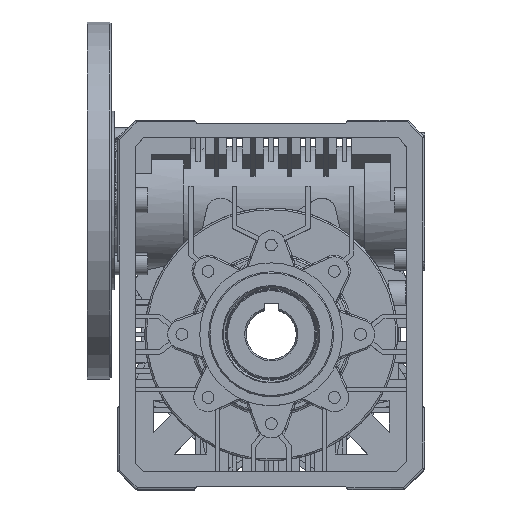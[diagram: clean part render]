
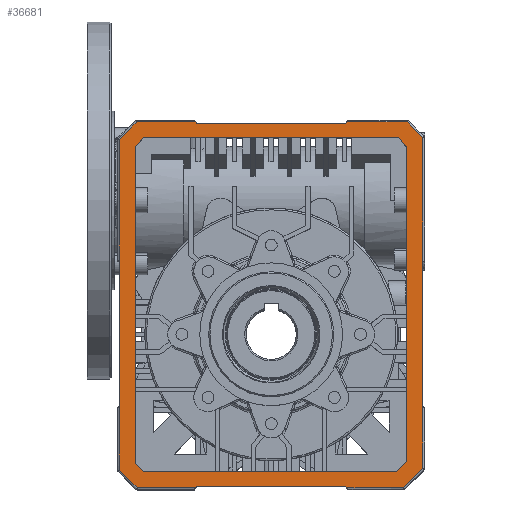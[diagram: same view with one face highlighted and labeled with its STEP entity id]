
A CAD part, top view. The second image highlights one B-rep face of the part: STEP entity #36681.
In plain terms, the highlighted planar face has unit normal (0, 0, 1).
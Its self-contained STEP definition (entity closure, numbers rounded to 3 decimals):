
#29567=CARTESIAN_POINT('',(-85.0,41.577,112.));
#29568=VERTEX_POINT('',#29567);
#31972=CARTESIAN_POINT('',(-42.423,119.0,112.));
#31973=VERTEX_POINT('',#31972);
#31981=CARTESIAN_POINT('',(-41.845,118.0,112.));
#31982=VERTEX_POINT('',#31981);
#31983=CARTESIAN_POINT('',(-41.845,118.0,112.));
#31984=DIRECTION('',(-0.5,0.866,0.0));
#31985=VECTOR('',#31984,1.155);
#31986=LINE('',#31983,#31985);
#31987=EDGE_CURVE('',#31982,#31973,#31986,.T.);
#32270=CARTESIAN_POINT('',(-85.,-40.423,112.));
#32271=VERTEX_POINT('',#32270);
#36090=CARTESIAN_POINT('',(85.0,-40.423,112.));
#36091=VERTEX_POINT('',#36090);
#36099=CARTESIAN_POINT('',(85.,-75.086,112.));
#36100=VERTEX_POINT('',#36099);
#36101=CARTESIAN_POINT('',(85.,-40.423,112.));
#36102=DIRECTION('',(0.0,-1.0,0.0));
#36103=VECTOR('',#36102,34.663);
#36104=LINE('',#36101,#36103);
#36105=EDGE_CURVE('',#36091,#36100,#36104,.T.);
#36130=CARTESIAN_POINT('',(74.086,-86.,112.));
#36131=VERTEX_POINT('',#36130);
#36132=CARTESIAN_POINT('',(85.,-75.086,112.));
#36133=DIRECTION('',(-0.707,-0.707,0.0));
#36134=VECTOR('',#36133,15.435);
#36135=LINE('',#36132,#36134);
#36136=EDGE_CURVE('',#36100,#36131,#36135,.T.);
#36154=CARTESIAN_POINT('',(42.423,-86.,112.));
#36155=VERTEX_POINT('',#36154);
#36171=CARTESIAN_POINT('',(74.086,-86.,112.));
#36172=DIRECTION('',(-1.0,0.0,0.0));
#36173=VECTOR('',#36172,31.663);
#36174=LINE('',#36171,#36173);
#36175=EDGE_CURVE('',#36131,#36155,#36174,.T.);
#36207=CARTESIAN_POINT('',(-42.423,-86.0,112.));
#36208=VERTEX_POINT('',#36207);
#36216=CARTESIAN_POINT('',(-75.086,-86.,112.));
#36217=VERTEX_POINT('',#36216);
#36218=CARTESIAN_POINT('',(-42.423,-86.0,112.));
#36219=DIRECTION('',(-1.0,0.0,0.0));
#36220=VECTOR('',#36219,32.663);
#36221=LINE('',#36218,#36220);
#36222=EDGE_CURVE('',#36208,#36217,#36221,.T.);
#36247=CARTESIAN_POINT('',(-85.,-76.086,112.));
#36248=VERTEX_POINT('',#36247);
#36249=CARTESIAN_POINT('',(-75.086,-86.,112.));
#36250=DIRECTION('',(-0.707,0.707,0.0));
#36251=VECTOR('',#36250,14.021);
#36252=LINE('',#36249,#36251);
#36253=EDGE_CURVE('',#36217,#36248,#36252,.T.);
#36280=CARTESIAN_POINT('',(-85.0,-76.086,112.));
#36281=DIRECTION('',(0.0,1.0,0.0));
#36282=VECTOR('',#36281,35.663);
#36283=LINE('',#36280,#36282);
#36284=EDGE_CURVE('',#36248,#32271,#36283,.T.);
#36317=CARTESIAN_POINT('',(-85.0,109.086,112.));
#36318=VERTEX_POINT('',#36317);
#36319=CARTESIAN_POINT('',(-85.0,41.577,112.));
#36320=DIRECTION('',(0.0,1.0,0.0));
#36321=VECTOR('',#36320,67.508);
#36322=LINE('',#36319,#36321);
#36323=EDGE_CURVE('',#29568,#36318,#36322,.T.);
#36348=CARTESIAN_POINT('',(-75.086,119.0,112.));
#36349=VERTEX_POINT('',#36348);
#36350=CARTESIAN_POINT('',(-85.,109.086,112.));
#36351=DIRECTION('',(0.707,0.707,0.0));
#36352=VECTOR('',#36351,14.021);
#36353=LINE('',#36350,#36352);
#36354=EDGE_CURVE('',#36318,#36349,#36353,.T.);
#36381=CARTESIAN_POINT('',(-75.086,119.0,112.));
#36382=DIRECTION('',(1.0,0.0,0.0));
#36383=VECTOR('',#36382,32.663);
#36384=LINE('',#36381,#36383);
#36385=EDGE_CURVE('',#36349,#31973,#36384,.T.);
#36417=CARTESIAN_POINT('',(42.423,119.0,112.));
#36418=VERTEX_POINT('',#36417);
#36426=CARTESIAN_POINT('',(76.086,119.0,112.));
#36427=VERTEX_POINT('',#36426);
#36428=CARTESIAN_POINT('',(42.423,119.0,112.));
#36429=DIRECTION('',(1.0,0.0,0.0));
#36430=VECTOR('',#36429,33.663);
#36431=LINE('',#36428,#36430);
#36432=EDGE_CURVE('',#36418,#36427,#36431,.T.);
#36457=CARTESIAN_POINT('',(85.,110.086,112.));
#36458=VERTEX_POINT('',#36457);
#36459=CARTESIAN_POINT('',(76.086,119.0,112.));
#36460=DIRECTION('',(0.707,-0.707,0.0));
#36461=VECTOR('',#36460,12.607);
#36462=LINE('',#36459,#36461);
#36463=EDGE_CURVE('',#36427,#36458,#36462,.T.);
#36492=CARTESIAN_POINT('',(85.,40.423,112.));
#36493=VERTEX_POINT('',#36492);
#36509=CARTESIAN_POINT('',(85.,110.086,112.));
#36510=DIRECTION('',(0.0,-1.0,0.0));
#36511=VECTOR('',#36510,69.663);
#36512=LINE('',#36509,#36511);
#36513=EDGE_CURVE('',#36458,#36493,#36512,.T.);
#36547=CARTESIAN_POINT('',(0.672,17.481,112.));
#36548=DIRECTION('',(0.0,0.0,1.0));
#36549=DIRECTION('',(1.0,0.0,0.0));
#36550=AXIS2_PLACEMENT_3D('',#36547,#36548,#36549);
#36551=PLANE('',#36550);
#36552=ORIENTED_EDGE('',*,*,#36105,.F.);
#36553=CARTESIAN_POINT('',(85.0,-40.423,112.));
#36554=DIRECTION('',(0.0,1.0,0.0));
#36555=VECTOR('',#36554,80.845);
#36556=LINE('',#36553,#36555);
#36557=EDGE_CURVE('',#36091,#36493,#36556,.T.);
#36558=ORIENTED_EDGE('',*,*,#36557,.T.);
#36559=ORIENTED_EDGE('',*,*,#36513,.F.);
#36560=ORIENTED_EDGE('',*,*,#36463,.F.);
#36561=ORIENTED_EDGE('',*,*,#36432,.F.);
#36562=CARTESIAN_POINT('',(41.845,118.0,112.));
#36563=VERTEX_POINT('',#36562);
#36564=CARTESIAN_POINT('',(42.423,119.,112.));
#36565=DIRECTION('',(-0.5,-0.866,0.0));
#36566=VECTOR('',#36565,1.155);
#36567=LINE('',#36564,#36566);
#36568=EDGE_CURVE('',#36418,#36563,#36567,.T.);
#36569=ORIENTED_EDGE('',*,*,#36568,.T.);
#36570=CARTESIAN_POINT('',(41.845,118.0,112.));
#36571=DIRECTION('',(-1.0,0.0,0.0));
#36572=VECTOR('',#36571,83.691);
#36573=LINE('',#36570,#36572);
#36574=EDGE_CURVE('',#36563,#31982,#36573,.T.);
#36575=ORIENTED_EDGE('',*,*,#36574,.T.);
#36576=ORIENTED_EDGE('',*,*,#31987,.T.);
#36577=ORIENTED_EDGE('',*,*,#36385,.F.);
#36578=ORIENTED_EDGE('',*,*,#36354,.F.);
#36579=ORIENTED_EDGE('',*,*,#36323,.F.);
#36580=CARTESIAN_POINT('',(-85.0,-40.423,112.));
#36581=DIRECTION('',(0.0,1.0,0.0));
#36582=VECTOR('',#36581,82.0);
#36583=LINE('',#36580,#36582);
#36584=EDGE_CURVE('',#32271,#29568,#36583,.T.);
#36585=ORIENTED_EDGE('',*,*,#36584,.F.);
#36586=ORIENTED_EDGE('',*,*,#36284,.F.);
#36587=ORIENTED_EDGE('',*,*,#36253,.F.);
#36588=ORIENTED_EDGE('',*,*,#36222,.F.);
#36589=CARTESIAN_POINT('',(-41.845,-85.,112.));
#36590=VERTEX_POINT('',#36589);
#36591=CARTESIAN_POINT('',(-42.423,-86.0,112.));
#36592=DIRECTION('',(0.5,0.866,0.0));
#36593=VECTOR('',#36592,1.155);
#36594=LINE('',#36591,#36593);
#36595=EDGE_CURVE('',#36208,#36590,#36594,.T.);
#36596=ORIENTED_EDGE('',*,*,#36595,.T.);
#36597=CARTESIAN_POINT('',(41.845,-85.,112.));
#36598=VERTEX_POINT('',#36597);
#36599=CARTESIAN_POINT('',(-41.845,-85.,112.));
#36600=DIRECTION('',(1.0,0.0,0.0));
#36601=VECTOR('',#36600,83.691);
#36602=LINE('',#36599,#36601);
#36603=EDGE_CURVE('',#36590,#36598,#36602,.T.);
#36604=ORIENTED_EDGE('',*,*,#36603,.T.);
#36605=CARTESIAN_POINT('',(41.845,-85.0,112.));
#36606=DIRECTION('',(0.5,-0.866,0.0));
#36607=VECTOR('',#36606,1.155);
#36608=LINE('',#36605,#36607);
#36609=EDGE_CURVE('',#36598,#36155,#36608,.T.);
#36610=ORIENTED_EDGE('',*,*,#36609,.T.);
#36611=ORIENTED_EDGE('',*,*,#36175,.F.);
#36612=ORIENTED_EDGE('',*,*,#36136,.F.);
#36613=EDGE_LOOP('',(#36552,#36558,#36559,#36560,#36561,#36569,#36575,#36576,#36577,#36578,#36579,#36585,#36586,#36587,#36588,#36596,#36604,#36610,#36611,#36612));
#36614=FACE_OUTER_BOUND('',#36613,.T.);
#36615=CARTESIAN_POINT('',(76.,104.358,112.));
#36616=VERTEX_POINT('',#36615);
#36617=CARTESIAN_POINT('',(76.,-71.358,112.));
#36618=VERTEX_POINT('',#36617);
#36619=CARTESIAN_POINT('',(76.,104.358,112.));
#36620=DIRECTION('',(0.0,-1.0,0.0));
#36621=VECTOR('',#36620,175.716);
#36622=LINE('',#36619,#36621);
#36623=EDGE_CURVE('',#36616,#36618,#36622,.T.);
#36624=ORIENTED_EDGE('',*,*,#36623,.T.);
#36625=CARTESIAN_POINT('',(70.358,-77.,112.));
#36626=VERTEX_POINT('',#36625);
#36627=CARTESIAN_POINT('',(76.,-71.358,112.));
#36628=DIRECTION('',(-0.707,-0.707,0.0));
#36629=VECTOR('',#36628,7.979);
#36630=LINE('',#36627,#36629);
#36631=EDGE_CURVE('',#36618,#36626,#36630,.T.);
#36632=ORIENTED_EDGE('',*,*,#36631,.T.);
#36633=CARTESIAN_POINT('',(-71.358,-77.,112.));
#36634=VERTEX_POINT('',#36633);
#36635=CARTESIAN_POINT('',(70.358,-77.,112.));
#36636=DIRECTION('',(-1.0,0.0,0.0));
#36637=VECTOR('',#36636,141.716);
#36638=LINE('',#36635,#36637);
#36639=EDGE_CURVE('',#36626,#36634,#36638,.T.);
#36640=ORIENTED_EDGE('',*,*,#36639,.T.);
#36641=CARTESIAN_POINT('',(-76.0,-72.358,112.));
#36642=VERTEX_POINT('',#36641);
#36643=CARTESIAN_POINT('',(-71.358,-77.,112.));
#36644=DIRECTION('',(-0.707,0.707,0.0));
#36645=VECTOR('',#36644,6.565);
#36646=LINE('',#36643,#36645);
#36647=EDGE_CURVE('',#36634,#36642,#36646,.T.);
#36648=ORIENTED_EDGE('',*,*,#36647,.T.);
#36649=CARTESIAN_POINT('',(-76.0,105.358,112.));
#36650=VERTEX_POINT('',#36649);
#36651=CARTESIAN_POINT('',(-76.0,-72.358,112.));
#36652=DIRECTION('',(0.0,1.0,0.0));
#36653=VECTOR('',#36652,177.716);
#36654=LINE('',#36651,#36653);
#36655=EDGE_CURVE('',#36642,#36650,#36654,.T.);
#36656=ORIENTED_EDGE('',*,*,#36655,.T.);
#36657=CARTESIAN_POINT('',(-71.358,110.0,112.));
#36658=VERTEX_POINT('',#36657);
#36659=CARTESIAN_POINT('',(-76.0,105.358,112.));
#36660=DIRECTION('',(0.707,0.707,0.0));
#36661=VECTOR('',#36660,6.565);
#36662=LINE('',#36659,#36661);
#36663=EDGE_CURVE('',#36650,#36658,#36662,.T.);
#36664=ORIENTED_EDGE('',*,*,#36663,.T.);
#36665=CARTESIAN_POINT('',(71.358,110.0,112.));
#36666=VERTEX_POINT('',#36665);
#36667=CARTESIAN_POINT('',(-71.358,110.0,112.));
#36668=DIRECTION('',(1.0,0.0,0.0));
#36669=VECTOR('',#36668,142.716);
#36670=LINE('',#36667,#36669);
#36671=EDGE_CURVE('',#36658,#36666,#36670,.T.);
#36672=ORIENTED_EDGE('',*,*,#36671,.T.);
#36673=CARTESIAN_POINT('',(71.358,110.0,112.));
#36674=DIRECTION('',(0.635,-0.772,0.0));
#36675=VECTOR('',#36674,7.306);
#36676=LINE('',#36673,#36675);
#36677=EDGE_CURVE('',#36666,#36616,#36676,.T.);
#36678=ORIENTED_EDGE('',*,*,#36677,.T.);
#36679=EDGE_LOOP('',(#36624,#36632,#36640,#36648,#36656,#36664,#36672,#36678));
#36680=FACE_BOUND('',#36679,.T.);
#36681=ADVANCED_FACE('',(#36614,#36680),#36551,.T.);
